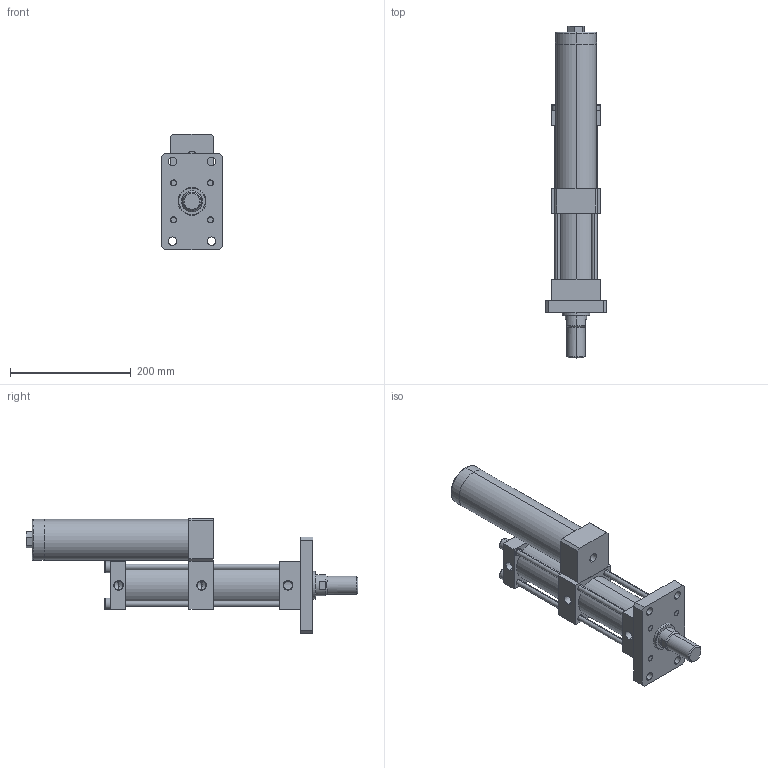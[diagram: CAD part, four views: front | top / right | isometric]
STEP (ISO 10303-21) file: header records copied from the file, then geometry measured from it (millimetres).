
FILE_DESCRIPTION (( 'STEP AP203' ), '1' );
FILE_NAME ('MPT-63-50-5-1T.STEP', '2016-03-17T09:38:58', ( 'WIN' ), ( '' ), 'SwSTEP 2.0', 'SolidWorks 2014', '' );
FILE_SCHEMA (( 'CONFIG_CONTROL_DESIGN' ));
Length unit declared in the file: millimetre
Products named in the file (1): MPT-63-50-5-1T
Bounding box: 100 x 550 x 191 mm (x, y, z)
Volume: 1858063.9 mm3; surface area: 391244.1 mm2
Topology: 14 solids, 14 shells, 251 faces, 573 edges, 360 vertices
Faces by surface type: plane 131, cylinder 84, cone 24, torus 12
Entity records: 7235 total; most frequent: DIRECTION 1304, CARTESIAN_POINT 1278, ORIENTED_EDGE 1134, EDGE_CURVE 567, AXIS2_PLACEMENT_3D 496, VERTEX_POINT 360, VECTOR 312, LINE 312
